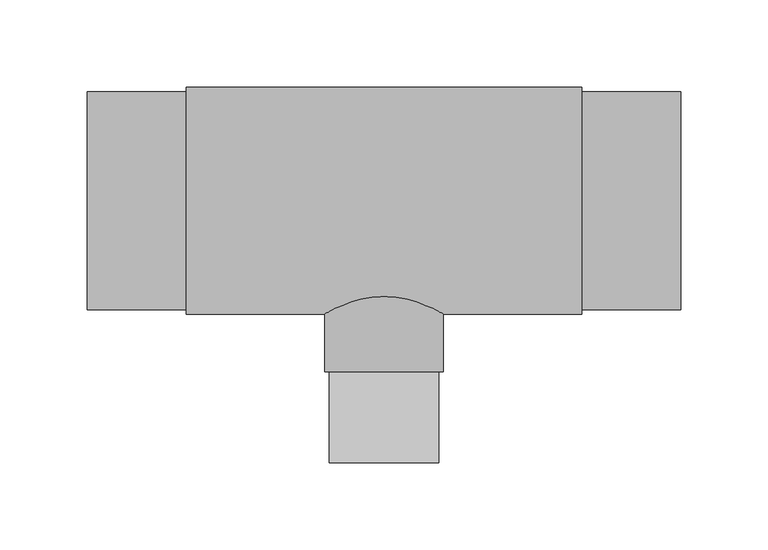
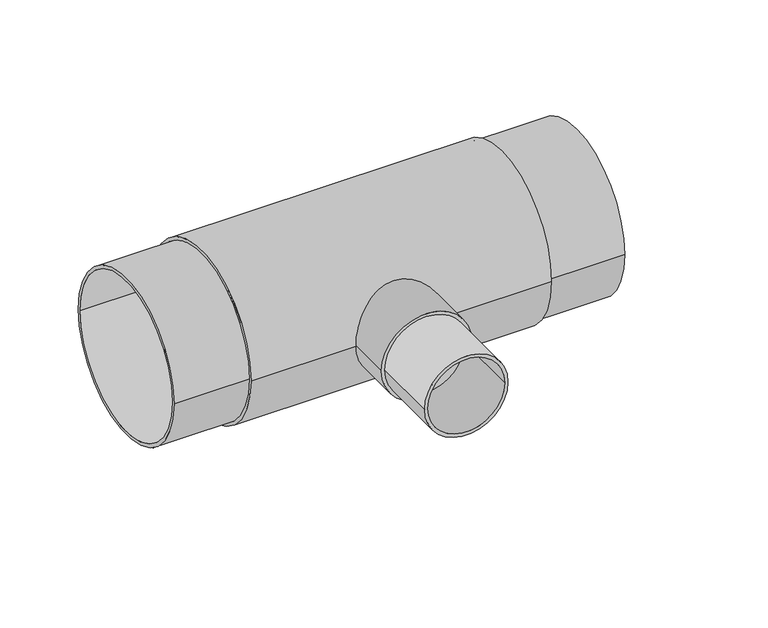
"""IFC4 building model written with IfcOpenShell, lengths in millimetres: pipe fitting geometry, EGB_VASEN_ PPR_Te a tope WXRB300_Te reducida a tope WXRB310 : Te a tope."""

from ifc_helpers import new_model, si_unit, point, frame, origin, origin_2d, place, context, project, spatial, circle_curve, trimmed, segment, composite_curve, outline, extrude, source, transform, mapped, element, save


def pipe_fitting_ff4ff375(model_context):
    return source(origin(), model_context, "Body", "SweptSolid", [
        extrude(outline(composite_curve([segment(trimmed(circle_curve(origin_2d(), 31.5), [point((0.0, 31.5))], [point((0.0, -31.5))], False, "CARTESIAN"), True, "CONTINUOUS"), segment(trimmed(circle_curve(origin_2d(), 31.5), [point((0.0, -31.5))], [point((0.0, 31.5))], False, "CARTESIAN"), True, "CONTINUOUS")], self_intersect=False), holes=[composite_curve([segment(trimmed(circle_curve(origin_2d(), 29.0), [point((0.0, 29.0))], [point((0.0, -29.0))], True, "CARTESIAN"), True, "CONTINUOUS"), segment(trimmed(circle_curve(origin_2d(), 29.0), [point((0.0, -29.0))], [point((0.0, 29.0))], True, "CARTESIAN"), True, "CONTINUOUS")], self_intersect=False)]), frame((0.0, -150.0, 0.0), z_axis=(0.0, 1.0, 0.0), x_axis=(0.0, 0.0, 1.0)), (0.0, 0.0, 1.0), 52.0),
        extrude(outline(composite_curve([segment(trimmed(circle_curve(origin_2d(), 34.0), [point((0.0, 34.0))], [point((0.0, -34.0))], False, "CARTESIAN"), True, "CONTINUOUS"), segment(trimmed(circle_curve(origin_2d(), 34.0), [point((0.0, -34.0))], [point((0.0, 34.0))], False, "CARTESIAN"), True, "CONTINUOUS")], self_intersect=False)), frame((0.0, -98.0, 0.0), z_axis=(0.0, 1.0, 0.0), x_axis=(0.0, 0.0, 1.0)), (0.0, 0.0, 1.0), 98.0),
        extrude(outline(composite_curve([segment(trimmed(circle_curve(origin_2d(), 65.0), [point((-65.0, 0.0))], [point((65.0, 0.0))], False, "CARTESIAN"), True, "CONTINUOUS"), segment(trimmed(circle_curve(origin_2d(), 65.0), [point((65.0, 0.0))], [point((-65.0, 0.0))], False, "CARTESIAN"), True, "CONTINUOUS")], self_intersect=False), holes=[composite_curve([segment(trimmed(circle_curve(origin_2d(), 62.5), [point((-62.5, 0.0))], [point((62.5, 0.0))], True, "CARTESIAN"), True, "CONTINUOUS"), segment(trimmed(circle_curve(origin_2d(), 62.5), [point((62.5, 0.0))], [point((-62.5, 0.0))], True, "CARTESIAN"), True, "CONTINUOUS")], self_intersect=False)]), frame((-113.3333333, 0.0, 0.0), z_axis=(1.0, 0.0, 0.0), x_axis=(0.0, 1.0, 0.0)), (0.0, 0.0, 1.0), 226.6666667),
        extrude(outline(composite_curve([segment(trimmed(circle_curve(origin_2d(), 62.5), [point((-62.5, 0.0))], [point((62.5, 0.0))], False, "CARTESIAN"), True, "CONTINUOUS"), segment(trimmed(circle_curve(origin_2d(), 62.5), [point((62.5, 0.0))], [point((-62.5, 0.0))], False, "CARTESIAN"), True, "CONTINUOUS")], self_intersect=False), holes=[composite_curve([segment(trimmed(circle_curve(origin_2d(), 60.0), [point((-60.0, 0.0))], [point((60.0, 0.0))], True, "CARTESIAN"), True, "CONTINUOUS"), segment(trimmed(circle_curve(origin_2d(), 60.0), [point((60.0, 0.0))], [point((-60.0, 0.0))], True, "CARTESIAN"), True, "CONTINUOUS")], self_intersect=False)]), frame((-170.0, 0.0, 0.0), z_axis=(1.0, 0.0, 0.0), x_axis=(0.0, 1.0, 0.0)), (0.0, 0.0, 1.0), 340.0),
    ])


if __name__ == "__main__":
    model = new_model("IFC4")
    model_context = context("Model", 3, world=origin())
    ifc_project = project(units=[si_unit("LENGTHUNIT", "METRE", prefix="MILLI")], contexts=[model_context])
    site = spatial("IfcSite", under=ifc_project)
    building = spatial("IfcBuilding", under=site)
    placement = place(None, origin())
    pipe_fitting_shape = pipe_fitting_ff4ff375(model_context)
    element("IfcPipeFitting", 1, ObjectType="EGB_VASEN_ PPR_Te a tope WXRB300_Te reducida a tope WXRB310 : Te a tope", at=placement, inside=building, context=model_context, shape_type="MappedRepresentation", body=[
        mapped(pipe_fitting_shape, transform((0.0, 0.0, 0.0), x_axis=(1.0, 0.0, 0.0), y_axis=(0.0, 1.0, 0.0), z_axis=(0.0, 0.0, 1.0))),
    ])
    save(model, "model.ifc")
